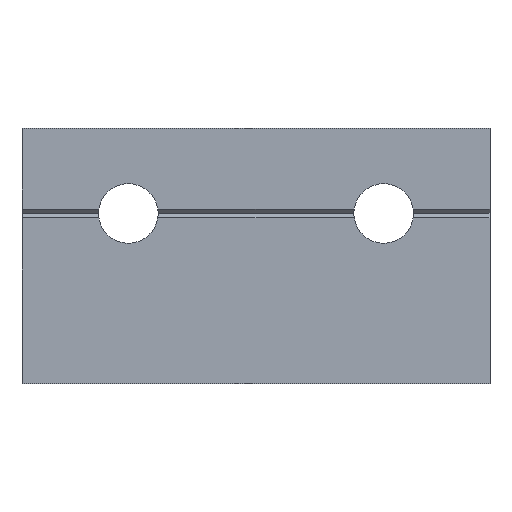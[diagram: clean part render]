
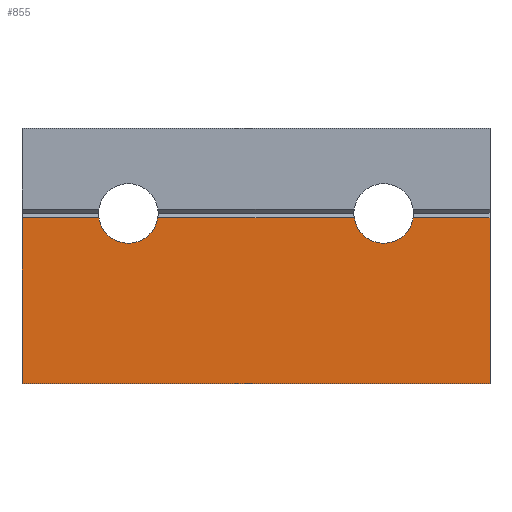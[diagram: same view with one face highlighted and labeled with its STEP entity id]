
A CAD part, left-side view. The second image highlights one B-rep face of the part: STEP entity #855.
In plain terms, the highlighted planar face has unit normal (-1, 0, 0).
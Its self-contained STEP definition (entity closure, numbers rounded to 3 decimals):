
#76=CIRCLE('',#952,3.5);
#77=CIRCLE('',#953,3.5);
#236=ORIENTED_EDGE('',*,*,#454,.F.);
#237=ORIENTED_EDGE('',*,*,#385,.F.);
#238=ORIENTED_EDGE('',*,*,#422,.F.);
#239=ORIENTED_EDGE('',*,*,#434,.F.);
#240=ORIENTED_EDGE('',*,*,#449,.T.);
#241=ORIENTED_EDGE('',*,*,#455,.F.);
#242=ORIENTED_EDGE('',*,*,#456,.F.);
#243=ORIENTED_EDGE('',*,*,#418,.F.);
#385=EDGE_CURVE('',#511,#512,#585,.T.);
#418=EDGE_CURVE('',#535,#536,#602,.T.);
#422=EDGE_CURVE('',#538,#511,#605,.T.);
#434=EDGE_CURVE('',#543,#538,#613,.T.);
#449=EDGE_CURVE('',#543,#548,#624,.T.);
#454=EDGE_CURVE('',#512,#535,#76,.T.);
#455=EDGE_CURVE('',#550,#548,#627,.T.);
#456=EDGE_CURVE('',#536,#550,#77,.T.);
#511=VERTEX_POINT('',#1349);
#512=VERTEX_POINT('',#1350);
#535=VERTEX_POINT('',#1415);
#536=VERTEX_POINT('',#1417);
#538=VERTEX_POINT('',#1423);
#543=VERTEX_POINT('',#1441);
#548=VERTEX_POINT('',#1463);
#550=VERTEX_POINT('',#1474);
#585=LINE('',#1348,#662);
#602=LINE('',#1416,#679);
#605=LINE('',#1424,#682);
#613=LINE('',#1442,#690);
#624=LINE('',#1464,#701);
#627=LINE('',#1473,#704);
#662=VECTOR('',#1063,1000.);
#679=VECTOR('',#1132,1000.);
#682=VECTOR('',#1139,1000.);
#690=VECTOR('',#1157,1000.);
#701=VECTOR('',#1180,1000.);
#704=VECTOR('',#1193,1000.);
#730=EDGE_LOOP('',(#236,#237,#238,#239,#240,#241,#242,#243));
#775=FACE_BOUND('',#730,.T.);
#820=PLANE('',#951);
#855=ADVANCED_FACE('',(#775),#820,.T.);
#951=AXIS2_PLACEMENT_3D('',#1471,#1189,#1190);
#952=AXIS2_PLACEMENT_3D('',#1472,#1191,#1192);
#953=AXIS2_PLACEMENT_3D('',#1475,#1194,#1195);
#1063=DIRECTION('',(0.,-1.,0.));
#1132=DIRECTION('',(0.,-1.,0.));
#1139=DIRECTION('',(0.,0.,1.));
#1157=DIRECTION('',(0.,1.,0.));
#1180=DIRECTION('',(0.,0.,1.));
#1189=DIRECTION('',(-1.,0.,0.));
#1190=DIRECTION('',(0.,0.,1.));
#1191=DIRECTION('',(-1.,0.,0.));
#1192=DIRECTION('',(0.,0.,1.));
#1193=DIRECTION('',(0.,-1.,0.));
#1194=DIRECTION('',(-1.,0.,0.));
#1195=DIRECTION('',(0.,0.,1.));
#1348=CARTESIAN_POINT('',(0.,-27.5,19.5));
#1349=CARTESIAN_POINT('',(0.,27.5,19.5));
#1350=CARTESIAN_POINT('',(0.,18.464,19.5));
#1415=CARTESIAN_POINT('',(0.,11.536,19.5));
#1416=CARTESIAN_POINT('',(0.,-27.5,19.5));
#1417=CARTESIAN_POINT('',(0.,-11.536,19.5));
#1423=CARTESIAN_POINT('',(0.,27.5,0.));
#1424=CARTESIAN_POINT('',(0.,27.5,0.));
#1441=CARTESIAN_POINT('',(0.,-27.5,0.));
#1442=CARTESIAN_POINT('',(0.,-27.5,0.));
#1463=CARTESIAN_POINT('',(0.,-27.5,19.5));
#1464=CARTESIAN_POINT('',(0.,-27.5,0.));
#1471=CARTESIAN_POINT('',(0.,-27.5,0.));
#1472=CARTESIAN_POINT('',(0.,15.,20.));
#1473=CARTESIAN_POINT('',(0.,-27.5,19.5));
#1474=CARTESIAN_POINT('',(0.,-18.464,19.5));
#1475=CARTESIAN_POINT('',(0.,-15.,20.));
